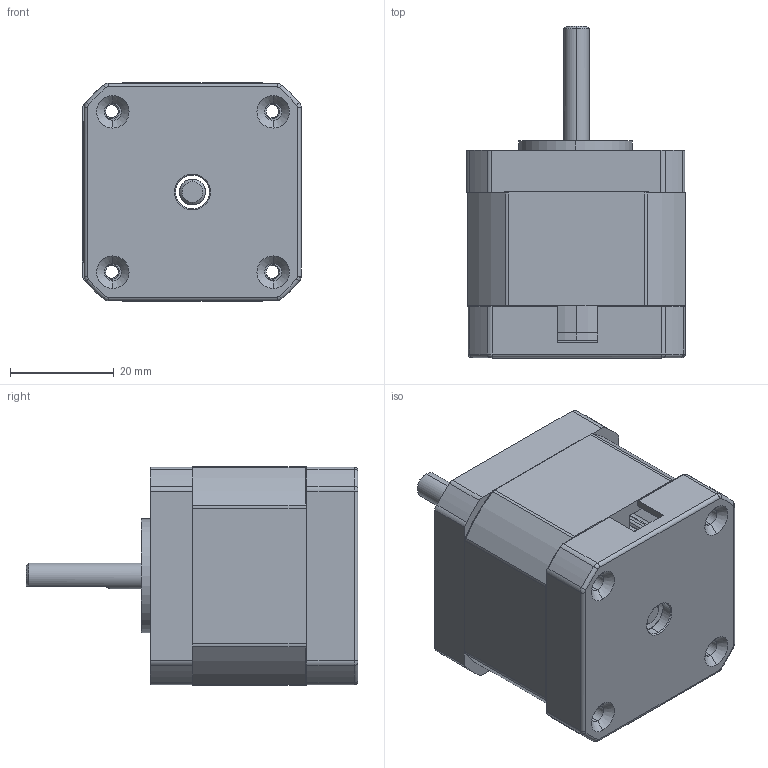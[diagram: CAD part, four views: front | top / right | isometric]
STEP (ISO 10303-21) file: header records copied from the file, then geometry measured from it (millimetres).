
FILE_DESCRIPTION (( 'STEP AP203' ), '1' );
FILE_NAME ('42CM04X-C.STEP', '2020-03-16T03:01:26', ( 'User' ), ( 'china' ), 'SwSTEP 2.0', 'SolidWorks 2014', '' );
FILE_SCHEMA (( 'CONFIG_CONTROL_DESIGN' ));
Length unit declared in the file: millimetre
Products named in the file (5): 隅赽42-22; 16-406; 16-401; 粣2; 42CM04X-C
Assembly tree (4 placements, depth 2):
  42CM04X-C
    隅赽42-22
    16-406
    16-401
    粣2
Bounding box: 42.38 x 64.1 x 42.2 mm (x, y, z)
Volume: 35210.3 mm3; surface area: 29404.6 mm2
Topology: 4 solids, 4 shells, 665 faces, 1846 edges, 1196 vertices
Faces by surface type: cylinder 392, plane 192, cone 38, torus 37, sphere 3, bspline 3
Entity records: 22285 total; most frequent: DIRECTION 4023, CARTESIAN_POINT 3939, ORIENTED_EDGE 3680, EDGE_CURVE 1840, AXIS2_PLACEMENT_3D 1546, VERTEX_POINT 1196, VECTOR 931, LINE 931
